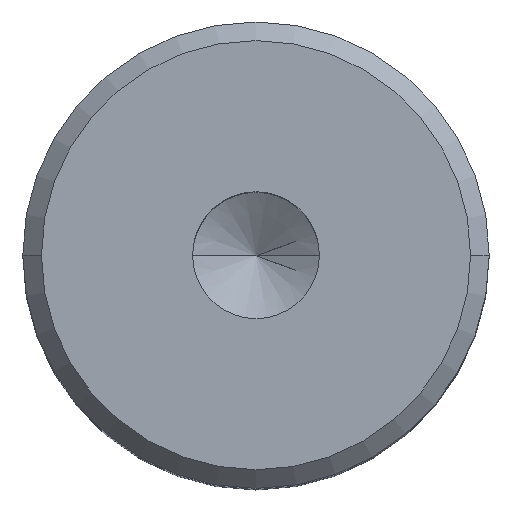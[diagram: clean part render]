
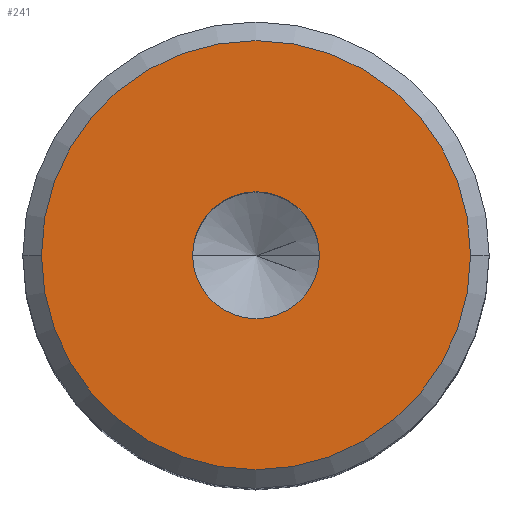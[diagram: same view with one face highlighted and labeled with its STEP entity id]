
A CAD part, top view. The second image highlights one B-rep face of the part: STEP entity #241.
In plain terms, the highlighted planar face has unit normal (0, 0, 1).
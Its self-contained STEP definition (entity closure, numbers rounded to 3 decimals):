
#28 = ORIENTED_EDGE ( 'NONE', *, *, #572, .F. ) ;
#32 = DIRECTION ( 'NONE',  ( 0., 0., -1. ) ) ;
#37 = CIRCLE ( 'NONE', #411, 11.5 ) ;
#53 = AXIS2_PLACEMENT_3D ( 'NONE', #441, #377, #999 ) ;
#71 = CARTESIAN_POINT ( 'NONE',  ( -14.95, -23.902, 25. ) ) ;
#107 = DIRECTION ( 'NONE',  ( -1., 0., 0. ) ) ;
#119 = EDGE_CURVE ( 'NONE', #142, #984, #583, .T. ) ;
#142 = VERTEX_POINT ( 'NONE', #350 ) ;
#144 = VERTEX_POINT ( 'NONE', #146 ) ;
#146 = CARTESIAN_POINT ( 'NONE',  ( 11.5, 0., 25. ) ) ;
#239 = AXIS2_PLACEMENT_3D ( 'NONE', #483, #567, #107 ) ;
#241 = ADVANCED_FACE ( 'NONE', ( #642, #489 ), #312, .T. ) ;
#276 = DIRECTION ( 'NONE',  ( 0., 0., 1. ) ) ;
#312 = PLANE ( 'NONE',  #709 ) ;
#343 = DIRECTION ( 'NONE',  ( 1., 0., 0. ) ) ;
#350 = CARTESIAN_POINT ( 'NONE',  ( -3.4, 0., 25. ) ) ;
#359 = AXIS2_PLACEMENT_3D ( 'NONE', #586, #276, #343 ) ;
#370 = EDGE_CURVE ( 'NONE', #144, #839, #776, .T. ) ;
#377 = DIRECTION ( 'NONE',  ( 0., 0., 1. ) ) ;
#411 = AXIS2_PLACEMENT_3D ( 'NONE', #737, #32, #968 ) ;
#441 = CARTESIAN_POINT ( 'NONE',  ( 0., 0., 25. ) ) ;
#483 = CARTESIAN_POINT ( 'NONE',  ( 0., 0., 25. ) ) ;
#489 = FACE_OUTER_BOUND ( 'NONE', #886, .T. ) ;
#567 = DIRECTION ( 'NONE',  ( 0., 0., -1. ) ) ;
#572 = EDGE_CURVE ( 'NONE', #984, #142, #949, .T. ) ;
#583 = CIRCLE ( 'NONE', #53, 3.4 ) ;
#586 = CARTESIAN_POINT ( 'NONE',  ( 0., 0., 25. ) ) ;
#587 = EDGE_CURVE ( 'NONE', #839, #144, #37, .T. ) ;
#642 = FACE_BOUND ( 'NONE', #1001, .T. ) ;
#706 = DIRECTION ( 'NONE',  ( 0., 0., 1. ) ) ;
#709 = AXIS2_PLACEMENT_3D ( 'NONE', #71, #706, #856 ) ;
#720 = ORIENTED_EDGE ( 'NONE', *, *, #370, .F. ) ;
#737 = CARTESIAN_POINT ( 'NONE',  ( 0., 0., 25. ) ) ;
#771 = CARTESIAN_POINT ( 'NONE',  ( -11.5, 0., 25. ) ) ;
#776 = CIRCLE ( 'NONE', #239, 11.5 ) ;
#839 = VERTEX_POINT ( 'NONE', #771 ) ;
#856 = DIRECTION ( 'NONE',  ( 1., 0., 0. ) ) ;
#868 = CARTESIAN_POINT ( 'NONE',  ( 3.4, 0., 25. ) ) ;
#886 = EDGE_LOOP ( 'NONE', ( #720, #916 ) ) ;
#916 = ORIENTED_EDGE ( 'NONE', *, *, #587, .F. ) ;
#949 = CIRCLE ( 'NONE', #359, 3.4 ) ;
#963 = ORIENTED_EDGE ( 'NONE', *, *, #119, .F. ) ;
#968 = DIRECTION ( 'NONE',  ( -1., 0., 0. ) ) ;
#984 = VERTEX_POINT ( 'NONE', #868 ) ;
#999 = DIRECTION ( 'NONE',  ( 1., 0., 0. ) ) ;
#1001 = EDGE_LOOP ( 'NONE', ( #28, #963 ) ) ;
